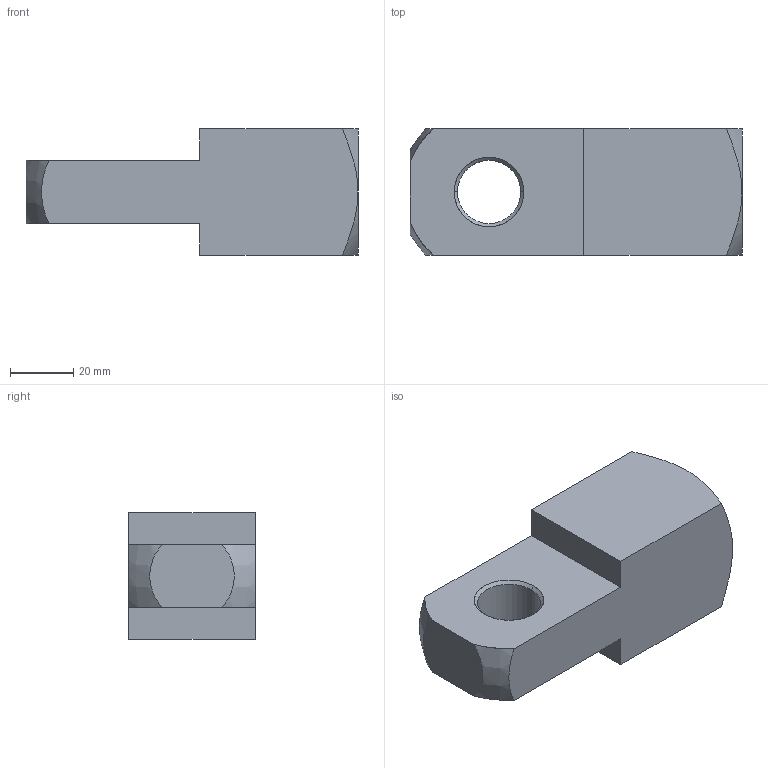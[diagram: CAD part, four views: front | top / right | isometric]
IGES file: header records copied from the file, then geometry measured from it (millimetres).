
Start section: SolidWorks IGES file using analytic representation for surfaces
Global section: file name: C:\Documents and Settings\IANO\My Documents\Wix and Auto CAD Work\CAD Models\Parametric Models\Wix Models\60000\65652_v2\65652_v2_IGES\65652.W0020.igs; native system: SolidWorks 2009; preprocessor: SolidWorks 2009; author: IANO; date: 140122.121023; units: millimetre
Bounding box: 105 x 40 x 40 mm (x, y, z)
Surface area: 20770.1 mm2 (no closed solid volume)
Topology: 0 solids, 0 shells, 31 faces, 518 edges, 516 vertices
Faces by surface type: revolution 18, bspline 13
